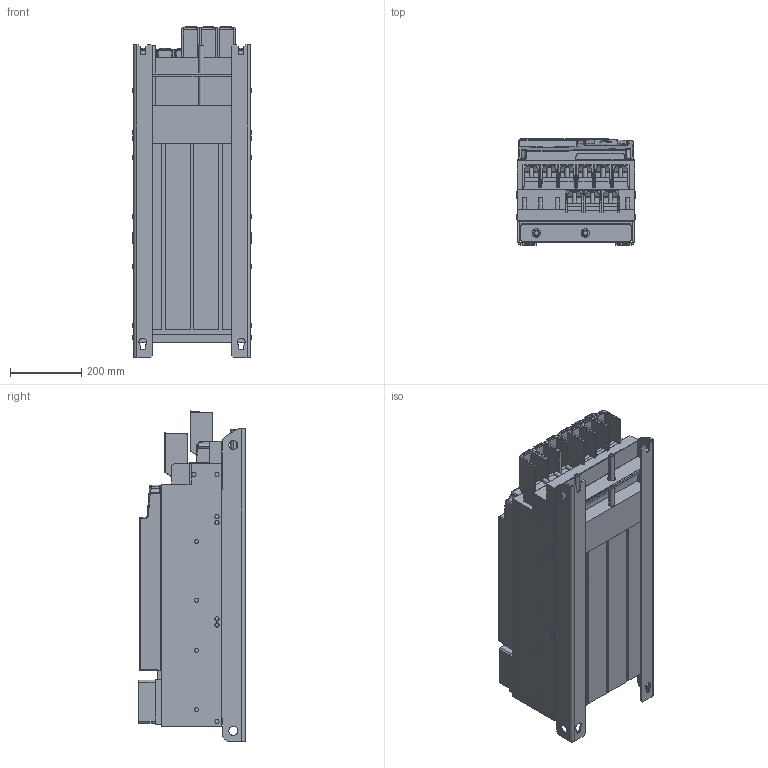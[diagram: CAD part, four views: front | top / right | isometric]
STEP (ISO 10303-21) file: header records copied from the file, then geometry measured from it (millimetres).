
FILE_DESCRIPTION (( 'STEP AP214' ), '1' );
FILE_NAME ('F6-8TW0-P151.STEP', '2021-03-02T07:51:50', ( '' ), ( '' ), 'SwSTEP 2.0', 'SolidWorks 2019', '' );
FILE_SCHEMA (( 'AUTOMOTIVE_DESIGN' ));
Length unit declared in the file: millimetre
Products named in the file (13): 10038044_000_Kundemodell; 10047771_000_Kundenmodell; 10051076_000_Kundenmodell; 10059765_000; 10040552_000_Kundenmodell; 10063199_000; 10059762_000_Kundenmodell mit Geberbuchsen; 10059764_000_Blindabdeckung (Kundenmodell); 10063887_000_F6-8 Leistungsteil TW0 (Kundenmodell + BW); 10063225_000; 10063897_000; F6-8TW0-P151; 10063180_000
Assembly tree (12 placements, depth 4):
  F6-8TW0-P151
    10063887_000_F6-8 Leistungsteil TW0 (Kundenmodell + BW)
      10038044_000_Kundemodell
        10063180_000
      10063897_000
    10040552_000_Kundenmodell
      10047771_000_Kundenmodell
        10063225_000
      10063199_000
    10051076_000_Kundenmodell
      10059764_000_Blindabdeckung (Kundenmodell)
        10059765_000
      10059762_000_Kundenmodell mit Geberbuchsen
Bounding box: 335.5 x 296.9 x 926.37 mm (x, y, z)
Volume: 65158580.7 mm3; surface area: 3062259 mm2
Topology: 6 solids, 30 shells, 2764 faces, 7054 edges, 4363 vertices
Faces by surface type: plane 1483, cylinder 765, bspline 219, sphere 154, cone 98, torus 45
Entity records: 88964 total; most frequent: CARTESIAN_POINT 23795, ORIENTED_EDGE 13886, DIRECTION 12860, EDGE_CURVE 6943, LINE 4532, VECTOR 4532, VERTEX_POINT 4360, AXIS2_PLACEMENT_3D 4164
